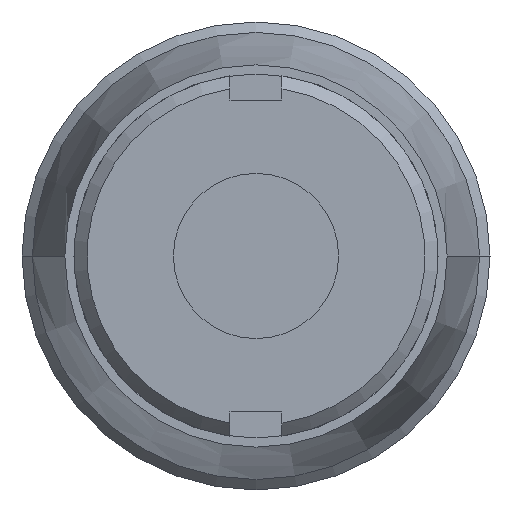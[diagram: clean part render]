
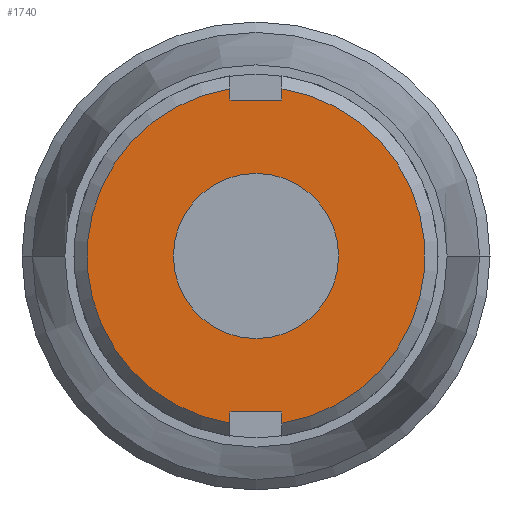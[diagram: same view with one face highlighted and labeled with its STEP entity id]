
A CAD part, left-side view. The second image highlights one B-rep face of the part: STEP entity #1740.
In plain terms, the highlighted planar face has unit normal (-1, 0, 0).
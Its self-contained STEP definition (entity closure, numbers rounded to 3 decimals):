
#310=CARTESIAN_POINT('',(61.722,-58.102,0.));
#320=VERTEX_POINT('',#310);
#400=CARTESIAN_POINT('',(61.722,-64.452,
0.));
#410=VERTEX_POINT('',#400);
#440=CARTESIAN_POINT('',(61.722,-61.277,0.));
#450=DIRECTION('',(1.,0.,0.));
#460=DIRECTION('',(0.,-1.,0.));
#470=AXIS2_PLACEMENT_3D('',#440,#450,#460);
#480=CIRCLE('',#470,3.175);
#490=EDGE_CURVE('',#410,#320,#480,.T.);
#960=CARTESIAN_POINT('',(61.722,-56.439,0.));
#970=DIRECTION('',(-1.,0.,0.));
#980=DIRECTION('',(0.,1.,0.));
#990=AXIS2_PLACEMENT_3D('',#960,#970,#980);
#1000=PLANE('',#990);
#1010=CARTESIAN_POINT('',(61.722,-60.277,
6.423));
#1020=DIRECTION('',(0.,0.,-1.));
#1030=VECTOR('',#1020,1.);
#1040=LINE('',#1010,#1030);
#1050=CARTESIAN_POINT('',(61.722,-60.277,
6.423));
#1060=VERTEX_POINT('',#1050);
#1070=CARTESIAN_POINT('',(61.722,-60.277,6.));
#1080=VERTEX_POINT('',#1070);
#1090=EDGE_CURVE('',#1060,#1080,#1040,.T.);
#1100=ORIENTED_EDGE('',*,*,#1090,.F.);
#1110=CARTESIAN_POINT('',(61.722,-60.277,6.));
#1120=DIRECTION('',(0.,-1.,0.));
#1130=VECTOR('',#1120,1.);
#1140=LINE('',#1110,#1130);
#1150=CARTESIAN_POINT('',(61.722,-62.277,6.));
#1160=VERTEX_POINT('',#1150);
#1170=EDGE_CURVE('',#1080,#1160,#1140,.T.);
#1180=ORIENTED_EDGE('',*,*,#1170,.F.);
#1190=CARTESIAN_POINT('',(61.722,-62.277,6.));
#1200=DIRECTION('',(0.,0.,1.));
#1210=VECTOR('',#1200,1.);
#1220=LINE('',#1190,#1210);
#1230=CARTESIAN_POINT('',(61.722,-62.277,
6.423));
#1240=VERTEX_POINT('',#1230);
#1250=EDGE_CURVE('',#1160,#1240,#1220,.T.);
#1260=ORIENTED_EDGE('',*,*,#1250,.F.);
#1270=CARTESIAN_POINT('',(61.722,-61.277,0.));
#1280=DIRECTION('',(-1.,-0.,0.));
#1290=DIRECTION('',(0.,-0.154,-0.988));
#1300=AXIS2_PLACEMENT_3D('',#1270,#1280,#1290);
#1310=CIRCLE('',#1300,6.5);
#1320=CARTESIAN_POINT('',(61.722,-62.277,
-6.423));
#1330=VERTEX_POINT('',#1320);
#1340=EDGE_CURVE('',#1330,#1240,#1310,.T.);
#1350=ORIENTED_EDGE('',*,*,#1340,.T.);
#1360=CARTESIAN_POINT('',(61.722,-62.277,
-6.423));
#1370=DIRECTION('',(0.,0.,1.));
#1380=VECTOR('',#1370,1.);
#1390=LINE('',#1360,#1380);
#1400=CARTESIAN_POINT('',(61.722,-62.277,-6.));
#1410=VERTEX_POINT('',#1400);
#1420=EDGE_CURVE('',#1330,#1410,#1390,.T.);
#1430=ORIENTED_EDGE('',*,*,#1420,.F.);
#1440=CARTESIAN_POINT('',(61.722,-62.277,-6.));
#1450=DIRECTION('',(0.,1.,0.));
#1460=VECTOR('',#1450,1.);
#1470=LINE('',#1440,#1460);
#1480=CARTESIAN_POINT('',(61.722,-60.277,-6.));
#1490=VERTEX_POINT('',#1480);
#1500=EDGE_CURVE('',#1410,#1490,#1470,.T.);
#1510=ORIENTED_EDGE('',*,*,#1500,.F.);
#1520=CARTESIAN_POINT('',(61.722,-60.277,-6.));
#1530=DIRECTION('',(0.,0.,-1.));
#1540=VECTOR('',#1530,1.);
#1550=LINE('',#1520,#1540);
#1560=CARTESIAN_POINT('',(61.722,-60.277,
-6.423));
#1570=VERTEX_POINT('',#1560);
#1580=EDGE_CURVE('',#1490,#1570,#1550,.T.);
#1590=ORIENTED_EDGE('',*,*,#1580,.F.);
#1600=CARTESIAN_POINT('',(61.722,-61.277,0.));
#1610=DIRECTION('',(-1.,0.,0.));
#1620=DIRECTION('',(0.,0.154,0.988));
#1630=AXIS2_PLACEMENT_3D('',#1600,#1610,#1620);
#1640=CIRCLE('',#1630,6.5);
#1650=EDGE_CURVE('',#1060,#1570,#1640,.T.);
#1660=ORIENTED_EDGE('',*,*,#1650,.T.);
#1670=EDGE_LOOP('',(#1660,#1590,#1510,#1430,#1350,#1260,#1180,#1100));
#1680=FACE_OUTER_BOUND('',#1670,.T.);
#1690=EDGE_CURVE('',#320,#410,#480,.T.);
#1700=ORIENTED_EDGE('',*,*,#1690,.T.);
#1710=ORIENTED_EDGE('',*,*,#490,.T.);
#1720=EDGE_LOOP('',(#1710,#1700));
#1730=FACE_BOUND('',#1720,.T.);
#1740=ADVANCED_FACE('',(#1680,#1730),#1000,.T.);
